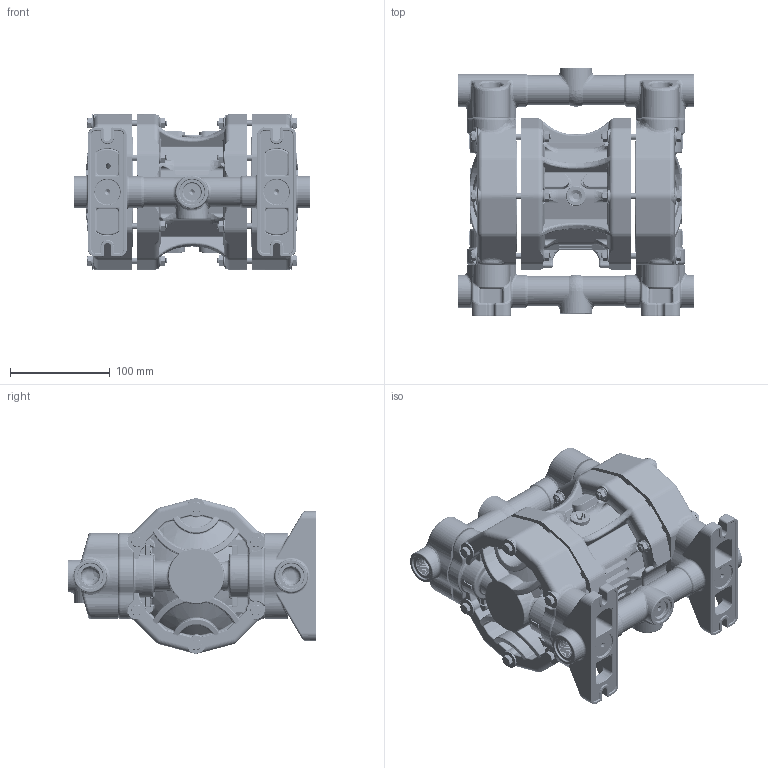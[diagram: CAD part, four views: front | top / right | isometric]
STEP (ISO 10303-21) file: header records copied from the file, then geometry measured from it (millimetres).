
FILE_DESCRIPTION (( 'STEP AP203' ), '1' );
FILE_NAME ('P55-Plastica-AB .STEP', '2020-02-25T07:31:28', ( 'User' ), ( 'Hewlett-Packard Company' ), 'SwSTEP 2.0', 'SolidWorks 2018', '' );
FILE_SCHEMA (( 'CONFIG_CONTROL_DESIGN' ));
Products named in the file (1): P55-Plastica-AB 
Bounding box: 238 x 249.45 x 156.29 mm (x, y, z)
Volume: 2293118.9 mm3; surface area: 694024.9 mm2
Topology: 84 solids, 90 shells, 13048 faces, 29317 edges, 16106 vertices
Faces by surface type: cylinder 3645, torus 3481, cone 2240, bspline 1606, plane 1494, sphere 582
Entity records: 443736 total; most frequent: CARTESIAN_POINT 163704, DIRECTION 62750, ORIENTED_EDGE 57490, EDGE_CURVE 28745, AXIS2_PLACEMENT_3D 27397, VERTEX_POINT 15988, CIRCLE 15954, EDGE_LOOP 13381
